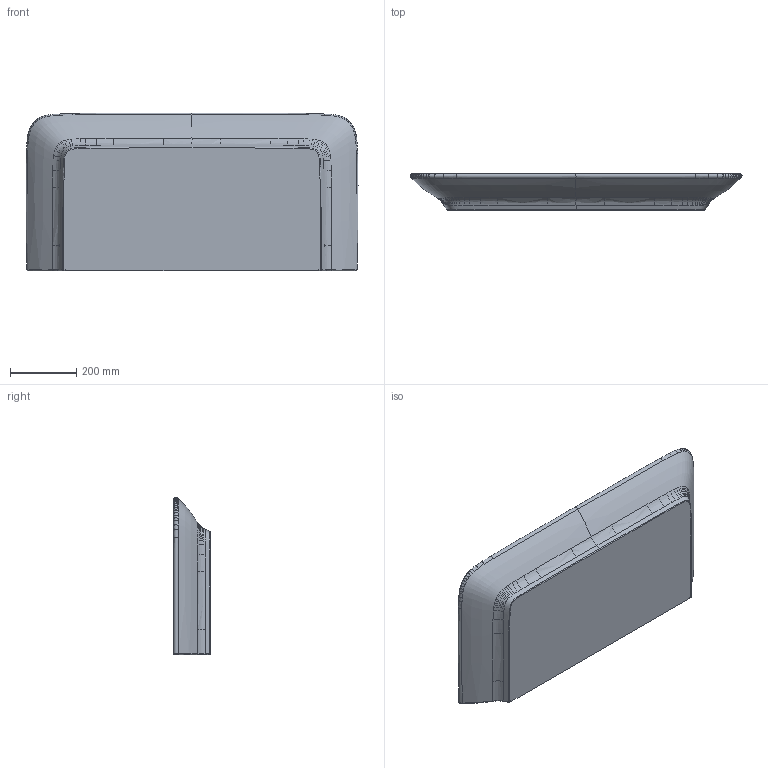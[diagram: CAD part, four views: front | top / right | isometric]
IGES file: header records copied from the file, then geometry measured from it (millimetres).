
Start section:  PTC IGES file: lw10069g.igs
Global section: file name: lw10069g.igs; native system: Pro/ENGINEER by Parametric Technology Corporation; preprocessor: 2010180; author: damjan; organization: Unknown; date: 20110526.100724; units: millimetre
Bounding box: 1003.09 x 110 x 477.16 mm (x, y, z)
Volume: 26021533.6 mm3; surface area: 1179653 mm2
Topology: 1 solids, 1 shells, 146 faces, 968 edges, 822 vertices
Faces by surface type: bspline 136, revolution 10
